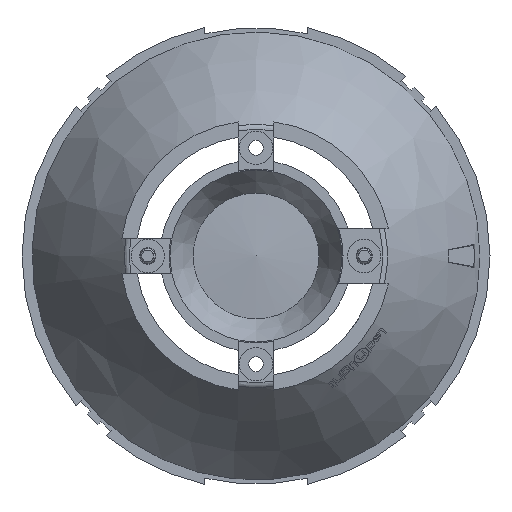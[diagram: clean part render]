
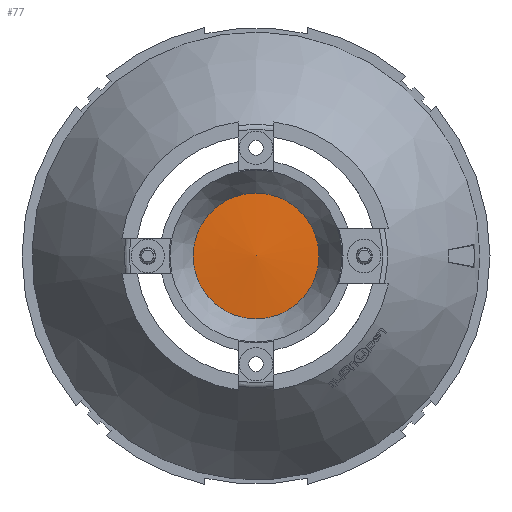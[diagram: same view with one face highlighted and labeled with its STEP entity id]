
A CAD part, front view. The second image highlights one B-rep face of the part: STEP entity #77.
In plain terms, the highlighted conical face has half-angle 86.216 degrees and reference radius 997.821 mm.
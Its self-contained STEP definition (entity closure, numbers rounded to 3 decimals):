
#77=ADVANCED_FACE('',(#389,#390),#391,.T.);
#389=FACE_OUTER_BOUND('',#1069,.T.);
#390=FACE_BOUND('',#1070,.T.);
#391=CONICAL_SURFACE('',#1071,997.821,1.505);
#1069=EDGE_LOOP('',(#2412));
#1070=VERTEX_LOOP('',#2413);
#1071=AXIS2_PLACEMENT_3D('',#2414,#2415,#2416);
#2412=ORIENTED_EDGE('',*,*,#5668,.T.);
#2413=VERTEX_POINT('',#5669);
#2414=CARTESIAN_POINT('',(0.0,71.687,0.0));
#2415=DIRECTION('',(-0.0,1.0,-0.0));
#2416=DIRECTION('',(0.0,0.0,1.0));
#5668=EDGE_CURVE('',#8047,#8047,#8048,.T.);
#5669=CARTESIAN_POINT('',(0.,5.7,0.0));
#8047=VERTEX_POINT('',#9370);
#8048=CIRCLE('',#9371,9.4);
#9370=CARTESIAN_POINT('',(0.0,6.322,-9.4));
#9371=AXIS2_PLACEMENT_3D('',#12332,#12333,#12334);
#12332=CARTESIAN_POINT('',(0.0,6.322,0.0));
#12333=DIRECTION('',(0.0,-1.0,0.0));
#12334=DIRECTION('',(0.0,0.0,-1.0));
